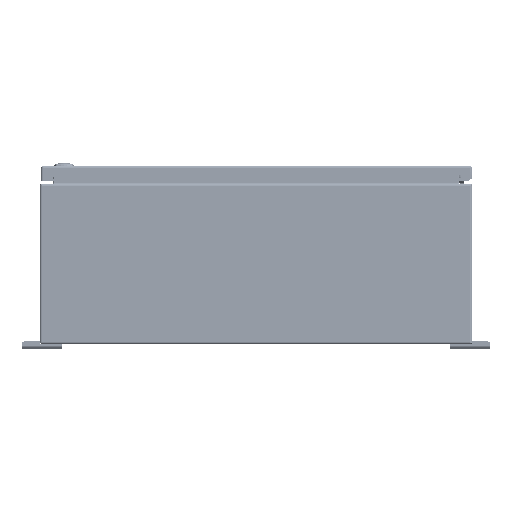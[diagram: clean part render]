
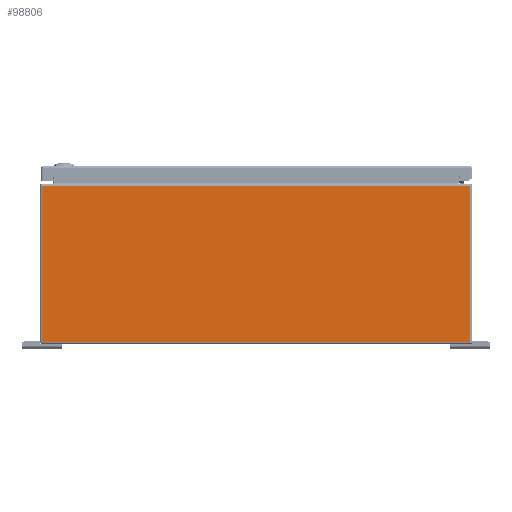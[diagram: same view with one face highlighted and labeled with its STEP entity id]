
A CAD part, left-side view. The second image highlights one B-rep face of the part: STEP entity #98806.
In plain terms, the highlighted planar face has unit normal (-1, 0, 0).
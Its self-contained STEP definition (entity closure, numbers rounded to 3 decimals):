
#5977=PLANE('',#105838);
#8469=LINE('',#139513,#16253);
#8470=LINE('',#139517,#16254);
#8471=LINE('',#139519,#16255);
#8472=LINE('',#139521,#16256);
#8473=LINE('',#139523,#16257);
#8474=LINE('',#139524,#16258);
#16253=VECTOR('',#114569,0.394);
#16254=VECTOR('',#114574,0.394);
#16255=VECTOR('',#114575,0.394);
#16256=VECTOR('',#114576,0.394);
#16257=VECTOR('',#114577,0.394);
#16258=VECTOR('',#114578,0.394);
#25597=FACE_OUTER_BOUND('',#31457,.T.);
#31457=EDGE_LOOP('',(#66918,#66919,#66920,#66921,#66922,#66923));
#41514=VERTEX_POINT('',#139495);
#41521=VERTEX_POINT('',#139512);
#41522=VERTEX_POINT('',#139516);
#41523=VERTEX_POINT('',#139518);
#41524=VERTEX_POINT('',#139520);
#41525=VERTEX_POINT('',#139522);
#51434=EDGE_CURVE('',#41514,#41521,#8469,.T.);
#51436=EDGE_CURVE('',#41522,#41514,#8470,.T.);
#51437=EDGE_CURVE('',#41522,#41523,#8471,.T.);
#51438=EDGE_CURVE('',#41524,#41523,#8472,.T.);
#51439=EDGE_CURVE('',#41525,#41524,#8473,.T.);
#51440=EDGE_CURVE('',#41525,#41521,#8474,.T.);
#66918=ORIENTED_EDGE('',*,*,#51436,.F.);
#66919=ORIENTED_EDGE('',*,*,#51437,.T.);
#66920=ORIENTED_EDGE('',*,*,#51438,.F.);
#66921=ORIENTED_EDGE('',*,*,#51439,.F.);
#66922=ORIENTED_EDGE('',*,*,#51440,.T.);
#66923=ORIENTED_EDGE('',*,*,#51434,.F.);
#98806=ADVANCED_FACE('',(#25597),#5977,.F.);
#105838=AXIS2_PLACEMENT_3D('',#139515,#114572,#114573);
#114569=DIRECTION('',(0.,0.,-1.));
#114572=DIRECTION('center_axis',(1.,0.,0.));
#114573=DIRECTION('ref_axis',(0.,0.,-1.));
#114574=DIRECTION('',(0.,-1.,0.));
#114575=DIRECTION('',(0.,1.,0.));
#114576=DIRECTION('',(0.,-1.,0.));
#114577=DIRECTION('',(0.,0.,1.));
#114578=DIRECTION('',(0.,-1.,0.));
#139495=CARTESIAN_POINT('',(-33.,-13.401,9.901));
#139512=CARTESIAN_POINT('',(-33.,-13.401,0.099));
#139513=CARTESIAN_POINT('',(-33.,-13.401,5.));
#139515=CARTESIAN_POINT('Origin',(-33.,0.,5.));
#139516=CARTESIAN_POINT('',(-33.,-12.626,9.901));
#139517=CARTESIAN_POINT('',(-33.,-6.725,9.901));
#139518=CARTESIAN_POINT('',(-33.,12.626,9.901));
#139519=CARTESIAN_POINT('',(-33.,6.705,9.901));
#139520=CARTESIAN_POINT('',(-33.,13.401,9.901));
#139521=CARTESIAN_POINT('',(-33.,-6.725,9.901));
#139522=CARTESIAN_POINT('',(-33.,13.401,0.099));
#139523=CARTESIAN_POINT('',(-33.,13.401,5.));
#139524=CARTESIAN_POINT('',(-33.,6.75,0.099));
